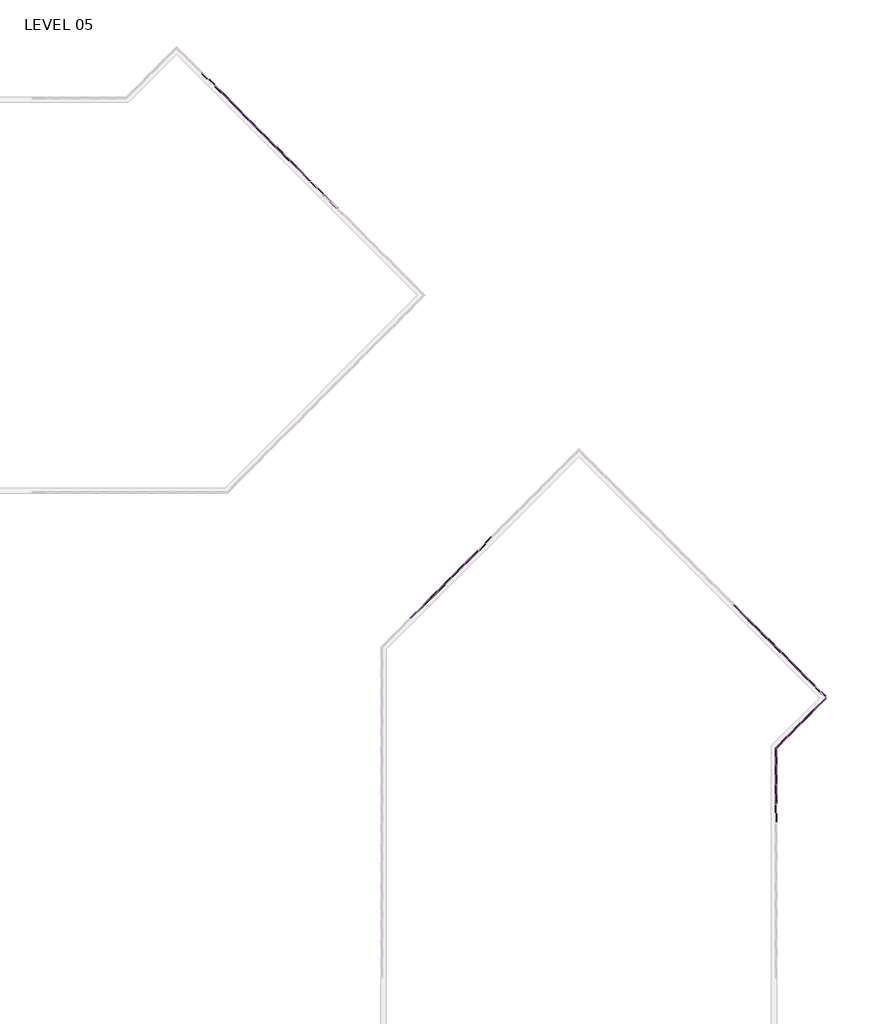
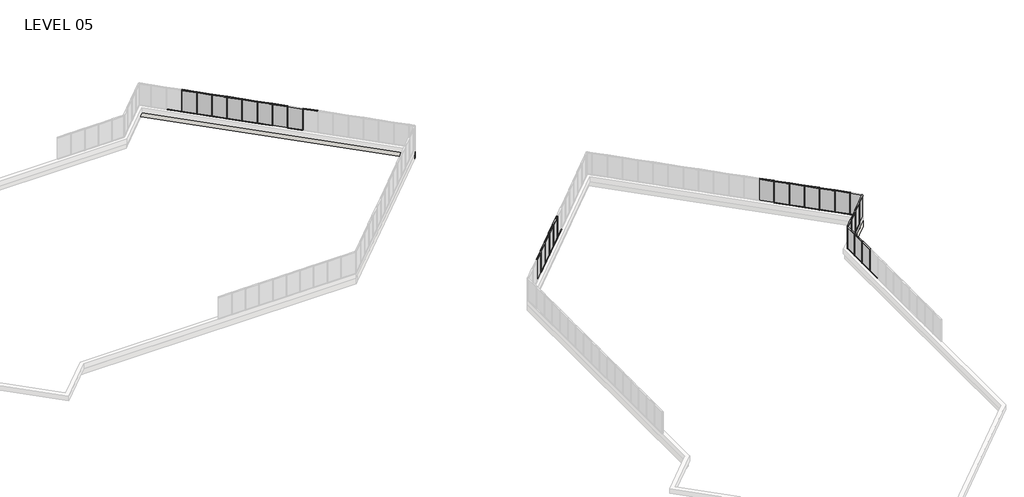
# One storey, part 16 of 17: 80 members, 27 plates, 2 walls.
"""IFC4 building model written with IfcOpenShell, lengths in millimetres."""

from ifc_helpers import new_model, si_unit, origin, place, context, project, spatial, faceted_brep, transform, mapped, element, save
from components import member_5247f267, member_e44af9ab, member_c23f844a, member_ed9c17d6, member_800970d4, member_45eb7f2e, member_53409b32, member_43bac76b, member_0b71a88d, plate_67294edd, plate_50b9cd61, plate_048e4634, plate_dca6a18a, plate_aaac5d3d, plate_9c66726c, plate_e0fd5134, plate_15429445, plate_0d1907f3, plate_903242d9

model = new_model("IFC4")

# Units and contexts
model_context = context("Model", 3, world=origin())
ifc_project = project(units=[si_unit("LENGTHUNIT", "METRE", prefix="MILLI")], contexts=[model_context])

# Site, building, storey
site = spatial("IfcSite", under=ifc_project)
building = spatial("IfcBuilding", under=site)
storey = spatial("IfcBuildingStorey", under=building, Name="LEVEL 05", Elevation=15824.2)

# Members
placement = place(None, origin())
member_shape = member_5247f267(model_context)
element("IfcMember", 1, ObjectType="Rectangular Mullion : 2\" x 4.5\" rectangular", at=placement, inside=storey, context=model_context, shape_type="MappedRepresentation", body=[
    mapped(member_shape, transform((56684.0325556, 112485.575885, 15824.2), x_axis=(0.0, 0.0, -1.0), y_axis=(0.7071067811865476, 0.7071067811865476, 0.0), z_axis=(0.7071067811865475, -0.7071067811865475, 0.0))),
])
element("IfcMember", 2, ObjectType="Rectangular Mullion : 2\" x 4.5\" rectangular", at=placement, inside=storey, context=model_context, shape_type="MappedRepresentation", body=[
    mapped(member_shape, transform((50242.2689164, 118927.3395242, 15824.2), x_axis=(0.0, 0.0, -1.0), y_axis=(0.7071067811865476, 0.7071067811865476, 0.0), z_axis=(0.7071067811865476, -0.7071067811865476, 0.0))),
])
element("IfcMember", 3, ObjectType="Rectangular Mullion : 2\" x 4.5\" rectangular", at=placement, inside=storey, context=model_context, shape_type="MappedRepresentation", body=[
    mapped(member_shape, transform((49164.6381819, 120004.9702587, 15824.2), x_axis=(0.0, 0.0, -1.0), y_axis=(0.7071067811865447, 0.7071067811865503, 0.0), z_axis=(0.7071067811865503, -0.7071067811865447, 0.0))),
])
element("IfcMember", 4, ObjectType="Rectangular Mullion : 2\" x 4.5\" rectangular", at=placement, inside=storey, context=model_context, shape_type="MappedRepresentation", body=[
    mapped(member_shape, transform((48087.0074473, 121082.6009932, 15824.2), x_axis=(0.0, 0.0, -1.0), y_axis=(0.7071067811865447, 0.7071067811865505, 0.0), z_axis=(0.7071067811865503, -0.7071067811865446, 0.0))),
])
element("IfcMember", 5, ObjectType="Rectangular Mullion : 2\" x 4.5\" rectangular", at=placement, inside=storey, context=model_context, shape_type="MappedRepresentation", body=[
    mapped(member_shape, transform((56719.9535801, 112449.6548605, 18415.0), x_axis=(0.0, 0.0, 1.0), y_axis=(0.7071067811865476, 0.7071067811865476, 0.0), z_axis=(-0.7071067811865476, 0.7071067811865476, 0.0))),
])
element("IfcMember", 6, ObjectType="Rectangular Mullion : 2\" x 4.5\" rectangular", at=placement, inside=storey, context=model_context, shape_type="MappedRepresentation", body=[
    mapped(member_shape, transform((49200.5592064, 119969.0492342, 18415.0), x_axis=(0.0, 0.0, 1.0), y_axis=(0.7071067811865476, 0.7071067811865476, 0.0), z_axis=(-0.7071067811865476, 0.7071067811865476, 0.0))),
])
element("IfcMember", 7, ObjectType="Rectangular Mullion : 2\" x 4.5\" rectangular", at=placement, inside=storey, context=model_context, shape_type="MappedRepresentation", body=[
    mapped(member_shape, transform((48122.9284718, 121046.6799687, 18415.0), x_axis=(0.0, 0.0, 1.0), y_axis=(0.7071067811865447, 0.7071067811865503, 0.0), z_axis=(-0.7071067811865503, 0.7071067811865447, 0.0))),
])
member_2_shape = member_e44af9ab(model_context)
element("IfcMember", 8, ObjectType="Rectangular Mullion : 2\" x 4.5\" rectangular", at=placement, inside=storey, context=model_context, shape_type="MappedRepresentation", body=[
    mapped(member_2_shape, transform((56701.9930678, 112467.6153727, 15824.2), x_axis=(-0.7071067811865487, 0.7071067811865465, 0.0), y_axis=(0.7071067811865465, 0.7071067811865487, 0.0), z_axis=(0.0, 0.0, -1.0))),
])
element("IfcMember", 9, ObjectType="Rectangular Mullion : 2\" x 4.5\" rectangular", at=placement, inside=storey, context=model_context, shape_type="MappedRepresentation", body=[
    mapped(member_2_shape, transform((55624.3980678, 113545.2103727, 15824.2), x_axis=(-0.7071067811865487, 0.7071067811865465, 0.0), y_axis=(0.7071067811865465, 0.7071067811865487, 0.0), z_axis=(0.0, 0.0, -1.0))),
])
element("IfcMember", 10, ObjectType="Rectangular Mullion : 2\" x 4.5\" rectangular", at=placement, inside=storey, context=model_context, shape_type="MappedRepresentation", body=[
    mapped(member_2_shape, transform((53475.159658, 115694.4487825, 15824.2), x_axis=(-0.7071067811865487, 0.7071067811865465, 0.0), y_axis=(0.7071067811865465, 0.7071067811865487, 0.0), z_axis=(0.0, 0.0, -1.0))),
])
element("IfcMember", 11, ObjectType="Rectangular Mullion : 2\" x 4.5\" rectangular", at=placement, inside=storey, context=model_context, shape_type="MappedRepresentation", body=[
    mapped(member_2_shape, transform((52403.5162482, 116766.0921923, 15824.2), x_axis=(-0.7071067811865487, 0.7071067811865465, 0.0), y_axis=(0.7071067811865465, 0.7071067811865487, 0.0), z_axis=(0.0, 0.0, -1.0))),
])
element("IfcMember", 12, ObjectType="Rectangular Mullion : 2\" x 4.5\" rectangular", at=placement, inside=storey, context=model_context, shape_type="MappedRepresentation", body=[
    mapped(member_2_shape, transform((51331.8728384, 117837.7356021, 15824.2), x_axis=(-0.7071067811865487, 0.7071067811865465, 0.0), y_axis=(0.7071067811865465, 0.7071067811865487, 0.0), z_axis=(0.0, 0.0, -1.0))),
])
element("IfcMember", 13, ObjectType="Rectangular Mullion : 2\" x 4.5\" rectangular", at=placement, inside=storey, context=model_context, shape_type="MappedRepresentation", body=[
    mapped(member_2_shape, transform((50260.2294286, 118909.3790119, 15824.2), x_axis=(-0.7071067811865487, 0.7071067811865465, 0.0), y_axis=(0.7071067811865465, 0.7071067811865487, 0.0), z_axis=(0.0, 0.0, -1.0))),
])
element("IfcMember", 14, ObjectType="Rectangular Mullion : 2\" x 4.5\" rectangular", at=placement, inside=storey, context=model_context, shape_type="MappedRepresentation", body=[
    mapped(member_2_shape, transform((54549.7788629, 114619.8295776, 15824.2), x_axis=(-0.7071067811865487, 0.7071067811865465, 0.0), y_axis=(0.7071067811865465, 0.7071067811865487, 0.0), z_axis=(0.0, 0.0, -1.0))),
])
element("IfcMember", 15, ObjectType="Rectangular Mullion : 2\" x 4.5\" rectangular", at=placement, inside=storey, context=model_context, shape_type="MappedRepresentation", body=[
    mapped(member_2_shape, transform((49182.5986941, 119987.0097464, 15824.2), x_axis=(-0.7071067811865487, 0.7071067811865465, 0.0), y_axis=(0.7071067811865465, 0.7071067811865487, 0.0), z_axis=(0.0, 0.0, -1.0))),
])
element("IfcMember", 16, ObjectType="Rectangular Mullion : 2\" x 4.5\" rectangular", at=placement, inside=storey, context=model_context, shape_type="MappedRepresentation", body=[
    mapped(member_2_shape, transform((48104.9679596, 121064.640481, 15824.2), x_axis=(-0.7071067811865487, 0.7071067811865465, 0.0), y_axis=(0.7071067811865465, 0.7071067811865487, 0.0), z_axis=(0.0, 0.0, -1.0))),
])
member_3_shape = member_c23f844a(model_context)
element("IfcMember", 17, ObjectType="Rectangular Mullion : 2\" x 4.5\" rectangular", at=placement, inside=storey, context=model_context, shape_type="MappedRepresentation", body=[
    mapped(member_3_shape, transform((52421.4767605, 116748.1316801, 18415.0), x_axis=(0.0, 0.0, 1.0), y_axis=(0.7071067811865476, 0.7071067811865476, 0.0), z_axis=(-0.7071067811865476, 0.7071067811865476, 0.0))),
])
element("IfcMember", 18, ObjectType="Rectangular Mullion : 2\" x 4.5\" rectangular", at=placement, inside=storey, context=model_context, shape_type="MappedRepresentation", body=[
    mapped(member_3_shape, transform((51349.8333507, 117819.7750899, 18415.0), x_axis=(0.0, 0.0, 1.0), y_axis=(0.7071067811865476, 0.7071067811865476, 0.0), z_axis=(-0.7071067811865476, 0.7071067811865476, 0.0))),
])
element("IfcMember", 19, ObjectType="Rectangular Mullion : 2\" x 4.5\" rectangular", at=placement, inside=storey, context=model_context, shape_type="MappedRepresentation", body=[
    mapped(member_3_shape, transform((50278.1899409, 118891.4184997, 18415.0), x_axis=(0.0, 0.0, 1.0), y_axis=(0.7071067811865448, 0.7071067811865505, 0.0), z_axis=(-0.7071067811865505, 0.7071067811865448, 0.0))),
])
element("IfcMember", 20, ObjectType="Rectangular Mullion : 2\" x 4.5\" rectangular", at=placement, inside=storey, context=model_context, shape_type="MappedRepresentation", body=[
    mapped(member_3_shape, transform((53457.1991458, 115712.4092948, 15824.2), x_axis=(0.0, 0.0, -1.0), y_axis=(0.7071067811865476, 0.7071067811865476, 0.0), z_axis=(0.7071067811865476, -0.7071067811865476, 0.0))),
])
element("IfcMember", 21, ObjectType="Rectangular Mullion : 2\" x 4.5\" rectangular", at=placement, inside=storey, context=model_context, shape_type="MappedRepresentation", body=[
    mapped(member_3_shape, transform((52385.555736, 116784.0527046, 15824.2), x_axis=(0.0, 0.0, -1.0), y_axis=(0.7071067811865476, 0.7071067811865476, 0.0), z_axis=(0.7071067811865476, -0.7071067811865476, 0.0))),
])
element("IfcMember", 22, ObjectType="Rectangular Mullion : 2\" x 4.5\" rectangular", at=placement, inside=storey, context=model_context, shape_type="MappedRepresentation", body=[
    mapped(member_3_shape, transform((51313.9123262, 117855.6961144, 15824.2), x_axis=(0.0, 0.0, -1.0), y_axis=(0.7071067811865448, 0.7071067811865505, 0.0), z_axis=(0.7071067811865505, -0.7071067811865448, 0.0))),
])
member_4_shape = member_ed9c17d6(model_context)
element("IfcMember", 23, ObjectType="Rectangular Mullion : 2\" x 4.5\" rectangular", at=placement, inside=storey, context=model_context, shape_type="MappedRepresentation", body=[
    mapped(member_4_shape, transform((53493.1201703, 115676.4882703, 18415.0), x_axis=(0.0, 0.0, 1.0), y_axis=(0.7071067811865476, 0.7071067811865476, 0.0), z_axis=(-0.7071067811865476, 0.7071067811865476, 0.0))),
])
element("IfcMember", 24, ObjectType="Rectangular Mullion : 2\" x 4.5\" rectangular", at=placement, inside=storey, context=model_context, shape_type="MappedRepresentation", body=[
    mapped(member_4_shape, transform((54567.7393752, 114601.8690654, 18415.0), x_axis=(0.0, 0.0, 1.0), y_axis=(0.7071067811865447, 0.7071067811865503, 0.0), z_axis=(-0.7071067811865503, 0.7071067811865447, 0.0))),
])
element("IfcMember", 25, ObjectType="Rectangular Mullion : 2\" x 4.5\" rectangular", at=placement, inside=storey, context=model_context, shape_type="MappedRepresentation", body=[
    mapped(member_4_shape, transform((54531.8183507, 114637.7900899, 15824.2), x_axis=(0.0, 0.0, -1.0), y_axis=(0.7071067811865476, 0.7071067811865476, 0.0), z_axis=(0.7071067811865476, -0.7071067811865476, 0.0))),
])
element("IfcMember", 26, ObjectType="Rectangular Mullion : 2\" x 4.5\" rectangular", at=placement, inside=storey, context=model_context, shape_type="MappedRepresentation", body=[
    mapped(member_shape, transform((92435.9347164, 65925.3675885, 18415.0), x_axis=(0.0, 0.0, 1.0), y_axis=(-1.0, 0.0, 0.0), z_axis=(0.0, -1.0, 0.0))),
])
element("IfcMember", 27, ObjectType="Rectangular Mullion : 2\" x 4.5\" rectangular", at=placement, inside=storey, context=model_context, shape_type="MappedRepresentation", body=[
    mapped(member_shape, transform((92435.9347164, 64401.3675885, 18415.0), x_axis=(0.0, 0.0, 1.0), y_axis=(-1.0, 0.0, 0.0), z_axis=(0.0, -1.0, 0.0))),
])
element("IfcMember", 28, ObjectType="Rectangular Mullion : 2\" x 4.5\" rectangular", at=placement, inside=storey, context=model_context, shape_type="MappedRepresentation", body=[
    mapped(member_shape, transform((64595.6050033, 80065.494011, 18415.0), x_axis=(0.0, 0.0, 1.0), y_axis=(0.7071067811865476, -0.7071067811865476, 0.0), z_axis=(0.7071067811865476, 0.7071067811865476, 0.0))),
])
element("IfcMember", 29, ObjectType="Rectangular Mullion : 2\" x 4.5\" rectangular", at=placement, inside=storey, context=model_context, shape_type="MappedRepresentation", body=[
    mapped(member_shape, transform((65673.2357378, 81143.1247456, 18415.0), x_axis=(0.0, 0.0, 1.0), y_axis=(0.7071067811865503, -0.7071067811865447, 0.0), z_axis=(0.7071067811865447, 0.7071067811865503, 0.0))),
])
element("IfcMember", 30, ObjectType="Rectangular Mullion : 2\" x 4.5\" rectangular", at=placement, inside=storey, context=model_context, shape_type="MappedRepresentation", body=[
    mapped(member_shape, transform((67828.4824051, 83298.3714129, 18415.0), x_axis=(0.0, 0.0, 1.0), y_axis=(0.7071067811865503, -0.7071067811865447, 0.0), z_axis=(0.7071067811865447, 0.7071067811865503, 0.0))),
])
element("IfcMember", 31, ObjectType="Rectangular Mullion : 2\" x 4.5\" rectangular", at=placement, inside=storey, context=model_context, shape_type="MappedRepresentation", body=[
    mapped(member_shape, transform((68906.0983379, 84375.9873457, 18415.0), x_axis=(0.0, 0.0, 1.0), y_axis=(0.7071067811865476, -0.7071067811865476, 0.0), z_axis=(0.7071067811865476, 0.7071067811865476, 0.0))),
])
element("IfcMember", 32, ObjectType="Rectangular Mullion : 2\" x 4.5\" rectangular", at=placement, inside=storey, context=model_context, shape_type="MappedRepresentation", body=[
    mapped(member_shape, transform((66750.8590715, 82220.7480792, 18415.0), x_axis=(0.0, 0.0, 1.0), y_axis=(0.7071067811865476, -0.7071067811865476, 0.0), z_axis=(0.7071067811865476, 0.7071067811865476, 0.0))),
])
element("IfcMember", 33, ObjectType="Rectangular Mullion : 2\" x 4.5\" rectangular", at=placement, inside=storey, context=model_context, shape_type="MappedRepresentation", body=[
    mapped(member_shape, transform((92277.0316457, 76892.5767949, 18415.0), x_axis=(0.0, 0.0, 1.0), y_axis=(-0.7071067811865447, -0.7071067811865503, 0.0), z_axis=(0.7071067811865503, -0.7071067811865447, 0.0))),
])
element("IfcMember", 34, ObjectType="Rectangular Mullion : 2\" x 4.5\" rectangular", at=placement, inside=storey, context=model_context, shape_type="MappedRepresentation", body=[
    mapped(member_shape, transform((93354.6623802, 75814.9460603, 18415.0), x_axis=(0.0, 0.0, 1.0), y_axis=(-0.7071067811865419, -0.7071067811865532, 0.0), z_axis=(0.7071067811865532, -0.7071067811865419, 0.0))),
])
element("IfcMember", 35, ObjectType="Rectangular Mullion : 2\" x 4.5\" rectangular", at=placement, inside=storey, context=model_context, shape_type="MappedRepresentation", body=[
    mapped(member_shape, transform((94432.2931147, 74737.3153258, 18415.0), x_axis=(0.0, 0.0, 1.0), y_axis=(-0.7071067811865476, -0.7071067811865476, 0.0), z_axis=(0.7071067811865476, -0.7071067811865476, 0.0))),
])
element("IfcMember", 36, ObjectType="Rectangular Mullion : 2\" x 4.5\" rectangular", at=placement, inside=storey, context=model_context, shape_type="MappedRepresentation", body=[
    mapped(member_shape, transform((95509.9238493, 73659.6845913, 18415.0), x_axis=(0.0, 0.0, 1.0), y_axis=(-0.7071067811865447, -0.7071067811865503, 0.0), z_axis=(0.7071067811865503, -0.7071067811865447, 0.0))),
])
element("IfcMember", 37, ObjectType="Rectangular Mullion : 2\" x 4.5\" rectangular", at=placement, inside=storey, context=model_context, shape_type="MappedRepresentation", body=[
    mapped(member_shape, transform((94441.1847655, 70787.511502, 18415.0), x_axis=(0.0, 0.0, 1.0), y_axis=(-0.7071067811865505, 0.7071067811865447, 0.0), z_axis=(-0.7071067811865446, -0.7071067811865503, 0.0))),
])
element("IfcMember", 38, ObjectType="Rectangular Mullion : 2\" x 4.5\" rectangular", at=placement, inside=storey, context=model_context, shape_type="MappedRepresentation", body=[
    mapped(member_shape, transform((93363.554031, 69709.8807675, 18415.0), x_axis=(0.0, 0.0, 1.0), y_axis=(-0.7071067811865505, 0.7071067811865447, 0.0), z_axis=(-0.7071067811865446, -0.7071067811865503, 0.0))),
])
element("IfcMember", 39, ObjectType="Rectangular Mullion : 2\" x 4.5\" rectangular", at=placement, inside=storey, context=model_context, shape_type="MappedRepresentation", body=[
    mapped(member_shape, transform((92435.9347164, 67398.5675885, 15824.2), x_axis=(0.0, 0.0, -1.0), y_axis=(-1.0, 0.0, 0.0), z_axis=(0.0, 1.0, 0.0))),
])
element("IfcMember", 40, ObjectType="Rectangular Mullion : 2\" x 4.5\" rectangular", at=placement, inside=storey, context=model_context, shape_type="MappedRepresentation", body=[
    mapped(member_shape, transform((92435.9347164, 65874.5675885, 15824.2), x_axis=(0.0, 0.0, -1.0), y_axis=(-1.0, 0.0, 0.0), z_axis=(0.0, 1.0, 0.0))),
])
element("IfcMember", 41, ObjectType="Rectangular Mullion : 2\" x 4.5\" rectangular", at=placement, inside=storey, context=model_context, shape_type="MappedRepresentation", body=[
    mapped(member_shape, transform((92435.9347164, 64350.5675885, 15824.2), x_axis=(0.0, 0.0, -1.0), y_axis=(-1.0, 0.0, 0.0), z_axis=(0.0, 1.0, 0.0))),
])
element("IfcMember", 42, ObjectType="Rectangular Mullion : 2\" x 4.5\" rectangular", at=placement, inside=storey, context=model_context, shape_type="MappedRepresentation", body=[
    mapped(member_shape, transform((64631.5260278, 80101.4150355, 15824.2), x_axis=(0.0, 0.0, -1.0), y_axis=(0.7071067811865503, -0.7071067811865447, 0.0), z_axis=(-0.7071067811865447, -0.7071067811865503, 0.0))),
])
element("IfcMember", 43, ObjectType="Rectangular Mullion : 2\" x 4.5\" rectangular", at=placement, inside=storey, context=model_context, shape_type="MappedRepresentation", body=[
    mapped(member_shape, transform((65709.1567623, 81179.04577, 15824.2), x_axis=(0.0, 0.0, -1.0), y_axis=(0.7071067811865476, -0.7071067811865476, 0.0), z_axis=(-0.7071067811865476, -0.7071067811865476, 0.0))),
])
element("IfcMember", 44, ObjectType="Rectangular Mullion : 2\" x 4.5\" rectangular", at=placement, inside=storey, context=model_context, shape_type="MappedRepresentation", body=[
    mapped(member_shape, transform((67864.4034296, 83334.2924374, 15824.2), x_axis=(0.0, 0.0, -1.0), y_axis=(0.7071067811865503, -0.7071067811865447, 0.0), z_axis=(-0.7071067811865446, -0.7071067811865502, 0.0))),
])
element("IfcMember", 45, ObjectType="Rectangular Mullion : 2\" x 4.5\" rectangular", at=placement, inside=storey, context=model_context, shape_type="MappedRepresentation", body=[
    mapped(member_shape, transform((68942.0193624, 84411.9083702, 15824.2), x_axis=(0.0, 0.0, -1.0), y_axis=(0.7071067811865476, -0.7071067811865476, 0.0), z_axis=(-0.7071067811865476, -0.7071067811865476, 0.0))),
])
element("IfcMember", 46, ObjectType="Rectangular Mullion : 2\" x 4.5\" rectangular", at=placement, inside=storey, context=model_context, shape_type="MappedRepresentation", body=[
    mapped(member_shape, transform((66786.780096, 82256.6691037, 15824.2), x_axis=(0.0, 0.0, -1.0), y_axis=(0.7071067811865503, -0.7071067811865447, 0.0), z_axis=(-0.7071067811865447, -0.7071067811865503, 0.0))),
])
element("IfcMember", 47, ObjectType="Rectangular Mullion : 2\" x 4.5\" rectangular", at=placement, inside=storey, context=model_context, shape_type="MappedRepresentation", body=[
    mapped(member_shape, transform((91235.3219356, 77934.2865049, 15824.2), x_axis=(0.0, 0.0, -1.0), y_axis=(-0.7071067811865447, -0.7071067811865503, 0.0), z_axis=(-0.7071067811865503, 0.7071067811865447, 0.0))),
])
element("IfcMember", 48, ObjectType="Rectangular Mullion : 2\" x 4.5\" rectangular", at=placement, inside=storey, context=model_context, shape_type="MappedRepresentation", body=[
    mapped(member_shape, transform((92312.9526702, 76856.6557704, 15824.2), x_axis=(0.0, 0.0, -1.0), y_axis=(-0.7071067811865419, -0.7071067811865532, 0.0), z_axis=(-0.7071067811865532, 0.7071067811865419, 0.0))),
])
element("IfcMember", 49, ObjectType="Rectangular Mullion : 2\" x 4.5\" rectangular", at=placement, inside=storey, context=model_context, shape_type="MappedRepresentation", body=[
    mapped(member_shape, transform((93390.5834047, 75779.0250359, 15824.2), x_axis=(0.0, 0.0, -1.0), y_axis=(-0.7071067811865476, -0.7071067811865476, 0.0), z_axis=(-0.7071067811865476, 0.7071067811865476, 0.0))),
])
element("IfcMember", 50, ObjectType="Rectangular Mullion : 2\" x 4.5\" rectangular", at=placement, inside=storey, context=model_context, shape_type="MappedRepresentation", body=[
    mapped(member_shape, transform((94468.2141392, 74701.3943013, 15824.2), x_axis=(0.0, 0.0, -1.0), y_axis=(-0.7071067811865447, -0.7071067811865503, 0.0), z_axis=(-0.7071067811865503, 0.7071067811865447, 0.0))),
])
element("IfcMember", 51, ObjectType="Rectangular Mullion : 2\" x 4.5\" rectangular", at=placement, inside=storey, context=model_context, shape_type="MappedRepresentation", body=[
    mapped(member_shape, transform((94405.263741, 70751.5904775, 15824.2), x_axis=(0.0, 0.0, -1.0), y_axis=(-0.7071067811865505, 0.7071067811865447, 0.0), z_axis=(0.7071067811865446, 0.7071067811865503, 0.0))),
])
element("IfcMember", 52, ObjectType="Rectangular Mullion : 2\" x 4.5\" rectangular", at=placement, inside=storey, context=model_context, shape_type="MappedRepresentation", body=[
    mapped(member_shape, transform((95482.8944756, 71829.221212, 15824.2), x_axis=(0.0, 0.0, -1.0), y_axis=(-0.7071067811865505, 0.7071067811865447, 0.0), z_axis=(0.7071067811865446, 0.7071067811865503, 0.0))),
])
element("IfcMember", 53, ObjectType="Rectangular Mullion : 2\" x 4.5\" rectangular", at=placement, inside=storey, context=model_context, shape_type="MappedRepresentation", body=[
    mapped(member_2_shape, transform((92435.9347164, 67423.9675885, 15824.2), x_axis=(0.0, -1.0, 0.0), y_axis=(-1.0, 0.0, 0.0), z_axis=(0.0, 0.0, -1.0))),
])
element("IfcMember", 54, ObjectType="Rectangular Mullion : 2\" x 4.5\" rectangular", at=placement, inside=storey, context=model_context, shape_type="MappedRepresentation", body=[
    mapped(member_2_shape, transform((92435.9347164, 65899.9675885, 15824.2), x_axis=(0.0, -1.0, 0.0), y_axis=(-1.0, 0.0, 0.0), z_axis=(0.0, 0.0, -1.0))),
])
element("IfcMember", 55, ObjectType="Rectangular Mullion : 2\" x 4.5\" rectangular", at=placement, inside=storey, context=model_context, shape_type="MappedRepresentation", body=[
    mapped(member_2_shape, transform((92435.9347164, 64375.9675885, 15824.2), x_axis=(0.0, -1.0, 0.0), y_axis=(-1.0, 0.0, 0.0), z_axis=(0.0, 0.0, -1.0))),
])
element("IfcMember", 56, ObjectType="Rectangular Mullion : 2\" x 4.5\" rectangular", at=placement, inside=storey, context=model_context, shape_type="MappedRepresentation", body=[
    mapped(member_2_shape, transform((64613.5655155, 80083.4545233, 15824.2), x_axis=(0.7071067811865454, 0.7071067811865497, 0.0), y_axis=(0.7071067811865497, -0.7071067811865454, 0.0), z_axis=(0.0, 0.0, -1.0))),
])
element("IfcMember", 57, ObjectType="Rectangular Mullion : 2\" x 4.5\" rectangular", at=placement, inside=storey, context=model_context, shape_type="MappedRepresentation", body=[
    mapped(member_2_shape, transform((65691.1962501, 81161.0852578, 15824.2), x_axis=(0.7071067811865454, 0.7071067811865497, 0.0), y_axis=(0.7071067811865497, -0.7071067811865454, 0.0), z_axis=(0.0, 0.0, -1.0))),
])
element("IfcMember", 58, ObjectType="Rectangular Mullion : 2\" x 4.5\" rectangular", at=placement, inside=storey, context=model_context, shape_type="MappedRepresentation", body=[
    mapped(member_2_shape, transform((67846.4429174, 83316.3319251, 15824.2), x_axis=(0.7071067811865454, 0.7071067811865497, 0.0), y_axis=(0.7071067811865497, -0.7071067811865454, 0.0), z_axis=(0.0, 0.0, -1.0))),
])
element("IfcMember", 59, ObjectType="Rectangular Mullion : 2\" x 4.5\" rectangular", at=placement, inside=storey, context=model_context, shape_type="MappedRepresentation", body=[
    mapped(member_2_shape, transform((68924.0588502, 84393.9478579, 15824.2), x_axis=(0.7071067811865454, 0.7071067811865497, 0.0), y_axis=(0.7071067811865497, -0.7071067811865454, 0.0), z_axis=(0.0, 0.0, -1.0))),
])
element("IfcMember", 60, ObjectType="Rectangular Mullion : 2\" x 4.5\" rectangular", at=placement, inside=storey, context=model_context, shape_type="MappedRepresentation", body=[
    mapped(member_2_shape, transform((66768.8195837, 82238.7085915, 15824.2), x_axis=(0.7071067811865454, 0.7071067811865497, 0.0), y_axis=(0.7071067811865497, -0.7071067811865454, 0.0), z_axis=(0.0, 0.0, -1.0))),
])
element("IfcMember", 61, ObjectType="Rectangular Mullion : 2\" x 4.5\" rectangular", at=placement, inside=storey, context=model_context, shape_type="MappedRepresentation", body=[
    mapped(member_2_shape, transform((90145.7180136, 79023.890427, 15824.2), x_axis=(0.7071067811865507, -0.7071067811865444, 0.0), y_axis=(-0.7071067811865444, -0.7071067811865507, 0.0), z_axis=(0.0, 0.0, -1.0))),
])
element("IfcMember", 62, ObjectType="Rectangular Mullion : 2\" x 4.5\" rectangular", at=placement, inside=storey, context=model_context, shape_type="MappedRepresentation", body=[
    mapped(member_2_shape, transform((91217.3614234, 77952.2470172, 15824.2), x_axis=(0.7071067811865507, -0.7071067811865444, 0.0), y_axis=(-0.7071067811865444, -0.7071067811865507, 0.0), z_axis=(0.0, 0.0, -1.0))),
])
element("IfcMember", 63, ObjectType="Rectangular Mullion : 2\" x 4.5\" rectangular", at=placement, inside=storey, context=model_context, shape_type="MappedRepresentation", body=[
    mapped(member_2_shape, transform((92294.9921579, 76874.6162826, 15824.2), x_axis=(0.7071067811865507, -0.7071067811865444, 0.0), y_axis=(-0.7071067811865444, -0.7071067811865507, 0.0), z_axis=(0.0, 0.0, -1.0))),
])
element("IfcMember", 64, ObjectType="Rectangular Mullion : 2\" x 4.5\" rectangular", at=placement, inside=storey, context=model_context, shape_type="MappedRepresentation", body=[
    mapped(member_2_shape, transform((93372.6228924, 75796.9855481, 15824.2), x_axis=(0.7071067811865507, -0.7071067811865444, 0.0), y_axis=(-0.7071067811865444, -0.7071067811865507, 0.0), z_axis=(0.0, 0.0, -1.0))),
])
element("IfcMember", 65, ObjectType="Rectangular Mullion : 2\" x 4.5\" rectangular", at=placement, inside=storey, context=model_context, shape_type="MappedRepresentation", body=[
    mapped(member_2_shape, transform((94450.253627, 74719.3548136, 15824.2), x_axis=(0.7071067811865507, -0.7071067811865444, 0.0), y_axis=(-0.7071067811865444, -0.7071067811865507, 0.0), z_axis=(0.0, 0.0, -1.0))),
])
element("IfcMember", 66, ObjectType="Rectangular Mullion : 2\" x 4.5\" rectangular", at=placement, inside=storey, context=model_context, shape_type="MappedRepresentation", body=[
    mapped(member_2_shape, transform((95527.8843615, 73641.724079, 15824.2), x_axis=(0.7071067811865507, -0.7071067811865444, 0.0), y_axis=(-0.7071067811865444, -0.7071067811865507, 0.0), z_axis=(0.0, 0.0, -1.0))),
])
element("IfcMember", 67, ObjectType="Rectangular Mullion : 2\" x 4.5\" rectangular", at=placement, inside=storey, context=model_context, shape_type="MappedRepresentation", body=[
    mapped(member_2_shape, transform((94423.2242533, 70769.5509898, 15824.2), x_axis=(-0.7071067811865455, -0.7071067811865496, 0.0), y_axis=(-0.7071067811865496, 0.7071067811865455, 0.0), z_axis=(0.0, 0.0, -1.0))),
])
element("IfcMember", 68, ObjectType="Rectangular Mullion : 2\" x 4.5\" rectangular", at=placement, inside=storey, context=model_context, shape_type="MappedRepresentation", body=[
    mapped(member_2_shape, transform((93345.5935187, 69691.9202552, 15824.2), x_axis=(-0.7071067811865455, -0.7071067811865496, 0.0), y_axis=(-0.7071067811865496, 0.7071067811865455, 0.0), z_axis=(0.0, 0.0, -1.0))),
])
element("IfcMember", 69, ObjectType="Rectangular Mullion : 2\" x 4.5\" rectangular", at=placement, inside=storey, context=model_context, shape_type="MappedRepresentation", body=[
    mapped(member_2_shape, transform((95500.8549878, 71847.1817243, 15824.2), x_axis=(-0.7071067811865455, -0.7071067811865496, 0.0), y_axis=(-0.7071067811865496, 0.7071067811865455, 0.0), z_axis=(0.0, 0.0, -1.0))),
])
member_5_shape = member_800970d4(model_context)
element("IfcMember", 70, ObjectType="Rectangular Mullion : 2\" x 4.5\" rectangular", at=placement, inside=storey, context=model_context, shape_type="MappedRepresentation", body=[
    mapped(member_5_shape, transform((92435.9347164, 68782.2614529, 15824.2), x_axis=(-0.7071067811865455, -0.7071067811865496, 0.0), y_axis=(-0.7071067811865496, 0.7071067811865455, 0.0), z_axis=(0.0, 0.0, -1.0))),
])
element("IfcMember", 71, ObjectType="Rectangular Mullion : 2\" x 4.5\" rectangular", at=placement, inside=storey, context=model_context, shape_type="MappedRepresentation", body=[
    mapped(member_5_shape, transform((92435.9347164, 68782.2614529, 18415.0), x_axis=(0.0, 1.0, 0.0), y_axis=(-1.0, 0.0, 0.0), z_axis=(0.0, 0.0, 1.0))),
])
element("IfcMember", 72, ObjectType="Rectangular Mullion : 2\" x 4.5\" rectangular", at=placement, inside=storey, context=model_context, shape_type="MappedRepresentation", body=[
    mapped(member_3_shape, transform((90127.7575014, 79041.8509392, 18415.0), x_axis=(0.0, 0.0, 1.0), y_axis=(-0.7071067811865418, -0.7071067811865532, 0.0), z_axis=(0.7071067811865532, -0.7071067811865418, 0.0))),
])
element("IfcMember", 73, ObjectType="Rectangular Mullion : 2\" x 4.5\" rectangular", at=placement, inside=storey, context=model_context, shape_type="MappedRepresentation", body=[
    mapped(member_3_shape, transform((91199.4009111, 77970.2075294, 18415.0), x_axis=(0.0, 0.0, 1.0), y_axis=(-0.7071067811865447, -0.7071067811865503, 0.0), z_axis=(0.7071067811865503, -0.7071067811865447, 0.0))),
])
element("IfcMember", 74, ObjectType="Rectangular Mullion : 2\" x 4.5\" rectangular", at=placement, inside=storey, context=model_context, shape_type="MappedRepresentation", body=[
    mapped(member_3_shape, transform((90163.6785258, 79005.9299147, 15824.2), x_axis=(0.0, 0.0, -1.0), y_axis=(-0.7071067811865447, -0.7071067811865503, 0.0), z_axis=(-0.7071067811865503, 0.7071067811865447, 0.0))),
])
member_6_shape = member_45eb7f2e(model_context)
element("IfcMember", 75, ObjectType="Rectangular Mullion : 2\" x 4.5\" rectangular", at=placement, inside=storey, context=model_context, shape_type="MappedRepresentation", body=[
    mapped(member_6_shape, transform((92435.9347164, 67449.3675885, 18415.0), x_axis=(0.0, 0.0, 1.0), y_axis=(-1.0, 0.0, 0.0), z_axis=(0.0, -1.0, 0.0))),
])
element("IfcMember", 76, ObjectType="Rectangular Mullion : 2\" x 4.5\" rectangular", at=placement, inside=storey, context=model_context, shape_type="MappedRepresentation", body=[
    mapped(member_6_shape, transform((92435.9347164, 68731.4614529, 15824.2), x_axis=(0.0, 0.0, -1.0), y_axis=(-1.0, 0.0, 0.0), z_axis=(0.0, 1.0, 0.0))),
])
member_7_shape = member_53409b32(model_context)
element("IfcMember", 77, ObjectType="Rectangular Mullion : 2\" x 4.5\" rectangular", at=placement, inside=storey, context=model_context, shape_type="MappedRepresentation", body=[
    mapped(member_7_shape, transform((95545.8448737, 73623.7635668, 15824.2), x_axis=(0.0, 0.0, -1.0), y_axis=(-0.7071067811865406, -0.7071067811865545, 0.0), z_axis=(-0.7071067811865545, 0.7071067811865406, 0.0))),
])
member_8_shape = member_43bac76b(model_context)
element("IfcMember", 78, ObjectType="Rectangular Mullion : 2\" x 4.5\" rectangular", at=placement, inside=storey, context=model_context, shape_type="MappedRepresentation", body=[
    mapped(member_8_shape, transform((92471.8557409, 68818.1824774, 18415.0), x_axis=(0.0, 0.0, 1.0), y_axis=(-0.7071067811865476, 0.7071067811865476, 0.0), z_axis=(-0.7071067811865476, -0.7071067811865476, 0.0))),
])
element("IfcMember", 79, ObjectType="Rectangular Mullion : 2\" x 4.5\" rectangular", at=placement, inside=storey, context=model_context, shape_type="MappedRepresentation", body=[
    mapped(member_8_shape, transform((93327.6330065, 69673.959743, 15824.2), x_axis=(0.0, 0.0, -1.0), y_axis=(-0.7071067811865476, 0.7071067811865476, 0.0), z_axis=(0.7071067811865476, 0.7071067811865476, 0.0))),
])
member_9_shape = member_0b71a88d(model_context)
element("IfcMember", 80, ObjectType="Rectangular Mullion : 2\" x 4.5\" rectangular", at=placement, inside=storey, context=model_context, shape_type="MappedRepresentation", body=[
    mapped(member_9_shape, transform((95518.8155, 71865.1422365, 18415.0), x_axis=(0.0, 0.0, 1.0), y_axis=(-0.7071067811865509, 0.7071067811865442, 0.0), z_axis=(-0.7071067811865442, -0.7071067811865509, 0.0))),
])

# Plates
plate_shape = plate_67294edd(model_context)
element("IfcPlate", 81, ObjectType="System Panel : 1/4\" Glass", at=placement, inside=storey, context=model_context, shape_type="MappedRepresentation", body=[
    mapped(plate_shape, transform((49721.4140614, 119448.1943792, 15875.0), x_axis=(-0.7071067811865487, 0.7071067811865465, 0.0), y_axis=(-0.7071067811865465, -0.7071067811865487, 0.0), z_axis=(0.0, 0.0, 1.0))),
])
element("IfcPlate", 82, ObjectType="System Panel : 1/4\" Glass", at=placement, inside=storey, context=model_context, shape_type="MappedRepresentation", body=[
    mapped(plate_shape, transform((48643.7833268, 120525.8251137, 15875.0), x_axis=(-0.7071067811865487, 0.7071067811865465, 0.0), y_axis=(-0.7071067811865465, -0.7071067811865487, 0.0), z_axis=(0.0, 0.0, 1.0))),
])
plate_2_shape = plate_50b9cd61(model_context)
element("IfcPlate", 83, ObjectType="System Panel : 1/4\" Glass", at=placement, inside=storey, context=model_context, shape_type="MappedRepresentation", body=[
    mapped(plate_2_shape, transform((52939.3379531, 116230.2704874, 15875.0), x_axis=(-0.7071067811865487, 0.7071067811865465, 0.0), y_axis=(-0.7071067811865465, -0.7071067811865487, 0.0), z_axis=(0.0, 0.0, 1.0))),
])
element("IfcPlate", 84, ObjectType="System Panel : 1/4\" Glass", at=placement, inside=storey, context=model_context, shape_type="MappedRepresentation", body=[
    mapped(plate_2_shape, transform((51867.6945433, 117301.9138972, 15875.0), x_axis=(-0.7071067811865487, 0.7071067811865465, 0.0), y_axis=(-0.7071067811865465, -0.7071067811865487, 0.0), z_axis=(0.0, 0.0, 1.0))),
])
element("IfcPlate", 85, ObjectType="System Panel : 1/4\" Glass", at=placement, inside=storey, context=model_context, shape_type="MappedRepresentation", body=[
    mapped(plate_2_shape, transform((50796.0511335, 118373.557307, 15875.0), x_axis=(-0.7071067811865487, 0.7071067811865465, 0.0), y_axis=(-0.7071067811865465, -0.7071067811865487, 0.0), z_axis=(0.0, 0.0, 1.0))),
])
plate_3_shape = plate_048e4634(model_context)
element("IfcPlate", 86, ObjectType="System Panel : 1/4\" Glass", at=placement, inside=storey, context=model_context, shape_type="MappedRepresentation", body=[
    mapped(plate_3_shape, transform((56163.1955678, 113006.4128727, 15875.0), x_axis=(-0.7071067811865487, 0.7071067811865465, 0.0), y_axis=(-0.7071067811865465, -0.7071067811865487, 0.0), z_axis=(0.0, 0.0, 1.0))),
])
plate_4_shape = plate_dca6a18a(model_context)
element("IfcPlate", 87, ObjectType="System Panel : 1/4\" Glass", at=placement, inside=storey, context=model_context, shape_type="MappedRepresentation", body=[
    mapped(plate_4_shape, transform((55087.0884654, 114082.5199752, 15875.0), x_axis=(-0.7071067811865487, 0.7071067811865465, 0.0), y_axis=(-0.7071067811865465, -0.7071067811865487, 0.0), z_axis=(0.0, 0.0, 1.0))),
])
element("IfcPlate", 88, ObjectType="System Panel : 1/4\" Glass", at=placement, inside=storey, context=model_context, shape_type="MappedRepresentation", body=[
    mapped(plate_4_shape, transform((54012.4692605, 115157.1391801, 15875.0), x_axis=(-0.7071067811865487, 0.7071067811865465, 0.0), y_axis=(-0.7071067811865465, -0.7071067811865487, 0.0), z_axis=(0.0, 0.0, 1.0))),
])
element("IfcPlate", 89, ObjectType="System Panel : 1/4\" Glass", at=placement, inside=storey, context=model_context, shape_type="MappedRepresentation", body=[
    mapped(plate_shape, transform((92435.9347164, 66661.9675885, 15875.0), x_axis=(0.0, -1.0, 0.0), y_axis=(1.0, 0.0, 0.0), z_axis=(0.0, 0.0, 1.0))),
])
element("IfcPlate", 90, ObjectType="System Panel : 1/4\" Glass", at=placement, inside=storey, context=model_context, shape_type="MappedRepresentation", body=[
    mapped(plate_shape, transform((92435.9347164, 65137.9675885, 15875.0), x_axis=(0.0, -1.0, 0.0), y_axis=(1.0, 0.0, 0.0), z_axis=(0.0, 0.0, 1.0))),
])
element("IfcPlate", 91, ObjectType="System Panel : 1/4\" Glass", at=placement, inside=storey, context=model_context, shape_type="MappedRepresentation", body=[
    mapped(plate_shape, transform((64074.7501483, 79544.639156, 15875.0), x_axis=(0.7071067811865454, 0.7071067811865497, 0.0), y_axis=(-0.7071067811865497, 0.7071067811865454, 0.0), z_axis=(0.0, 0.0, 1.0))),
])
element("IfcPlate", 92, ObjectType="System Panel : 1/4\" Glass", at=placement, inside=storey, context=model_context, shape_type="MappedRepresentation", body=[
    mapped(plate_shape, transform((65152.3808828, 80622.2698905, 15875.0), x_axis=(0.7071067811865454, 0.7071067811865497, 0.0), y_axis=(-0.7071067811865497, 0.7071067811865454, 0.0), z_axis=(0.0, 0.0, 1.0))),
])
element("IfcPlate", 93, ObjectType="System Panel : 1/4\" Glass", at=placement, inside=storey, context=model_context, shape_type="MappedRepresentation", body=[
    mapped(plate_shape, transform((91756.1767907, 77413.4316499, 15875.0), x_axis=(0.7071067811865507, -0.7071067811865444, 0.0), y_axis=(0.7071067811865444, 0.7071067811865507, 0.0), z_axis=(0.0, 0.0, 1.0))),
])
element("IfcPlate", 94, ObjectType="System Panel : 1/4\" Glass", at=placement, inside=storey, context=model_context, shape_type="MappedRepresentation", body=[
    mapped(plate_shape, transform((92833.8075252, 76335.8009154, 15875.0), x_axis=(0.7071067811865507, -0.7071067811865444, 0.0), y_axis=(0.7071067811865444, 0.7071067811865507, 0.0), z_axis=(0.0, 0.0, 1.0))),
])
element("IfcPlate", 95, ObjectType="System Panel : 1/4\" Glass", at=placement, inside=storey, context=model_context, shape_type="MappedRepresentation", body=[
    mapped(plate_shape, transform((93911.4382597, 75258.1701808, 15875.0), x_axis=(0.7071067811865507, -0.7071067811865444, 0.0), y_axis=(0.7071067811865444, 0.7071067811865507, 0.0), z_axis=(0.0, 0.0, 1.0))),
])
element("IfcPlate", 96, ObjectType="System Panel : 1/4\" Glass", at=placement, inside=storey, context=model_context, shape_type="MappedRepresentation", body=[
    mapped(plate_shape, transform((94989.0689942, 74180.5394463, 15875.0), x_axis=(0.7071067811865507, -0.7071067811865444, 0.0), y_axis=(0.7071067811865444, 0.7071067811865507, 0.0), z_axis=(0.0, 0.0, 1.0))),
])
element("IfcPlate", 97, ObjectType="System Panel : 1/4\" Glass", at=placement, inside=storey, context=model_context, shape_type="MappedRepresentation", body=[
    mapped(plate_shape, transform((93884.408886, 70230.7356225, 15875.0), x_axis=(-0.7071067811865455, -0.7071067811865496, 0.0), y_axis=(0.7071067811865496, -0.7071067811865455, 0.0), z_axis=(0.0, 0.0, 1.0))),
])
element("IfcPlate", 98, ObjectType="System Panel : 1/4\" Glass", at=placement, inside=storey, context=model_context, shape_type="MappedRepresentation", body=[
    mapped(plate_shape, transform((94962.0396205, 71308.366357, 15875.0), x_axis=(-0.7071067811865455, -0.7071067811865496, 0.0), y_axis=(0.7071067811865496, -0.7071067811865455, 0.0), z_axis=(0.0, 0.0, 1.0))),
])
plate_5_shape = plate_aaac5d3d(model_context)
element("IfcPlate", 99, ObjectType="System Panel : 1/4\" Glass", at=placement, inside=storey, context=model_context, shape_type="MappedRepresentation", body=[
    mapped(plate_5_shape, transform((68385.2508838, 83855.1398915, 15875.0), x_axis=(0.7071067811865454, 0.7071067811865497, 0.0), y_axis=(-0.7071067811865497, 0.7071067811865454, 0.0), z_axis=(0.0, 0.0, 1.0))),
])
element("IfcPlate", 100, ObjectType="System Panel : 1/4\" Glass", at=placement, inside=storey, context=model_context, shape_type="MappedRepresentation", body=[
    mapped(plate_2_shape, transform((89609.8963087, 79559.7121319, 15875.0), x_axis=(0.7071067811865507, -0.7071067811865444, 0.0), y_axis=(0.7071067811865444, 0.7071067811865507, 0.0), z_axis=(0.0, 0.0, 1.0))),
])
element("IfcPlate", 101, ObjectType="System Panel : 1/4\" Glass", at=placement, inside=storey, context=model_context, shape_type="MappedRepresentation", body=[
    mapped(plate_2_shape, transform((90681.5397185, 78488.0687221, 15875.0), x_axis=(0.7071067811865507, -0.7071067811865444, 0.0), y_axis=(0.7071067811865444, 0.7071067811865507, 0.0), z_axis=(0.0, 0.0, 1.0))),
])
plate_6_shape = plate_9c66726c(model_context)
element("IfcPlate", 102, ObjectType="System Panel : 1/4\" Glass", at=placement, inside=storey, context=model_context, shape_type="MappedRepresentation", body=[
    mapped(plate_6_shape, transform((92435.9347164, 68090.4145207, 15875.0), x_axis=(0.0, -1.0, 0.0), y_axis=(1.0, 0.0, 0.0), z_axis=(0.0, 0.0, 1.0))),
])
plate_7_shape = plate_e0fd5134(model_context)
element("IfcPlate", 103, ObjectType="System Panel : 1/4\" Glass", at=placement, inside=storey, context=model_context, shape_type="MappedRepresentation", body=[
    mapped(plate_7_shape, transform((66230.0079169, 81699.8969246, 15875.0), x_axis=(0.7071067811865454, 0.7071067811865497, 0.0), y_axis=(-0.7071067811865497, 0.7071067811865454, 0.0), z_axis=(0.0, 0.0, 1.0))),
])
element("IfcPlate", 104, ObjectType="System Panel : 1/4\" Glass", at=placement, inside=storey, context=model_context, shape_type="MappedRepresentation", body=[
    mapped(plate_7_shape, transform((67307.6312505, 82777.5202583, 15875.0), x_axis=(0.7071067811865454, 0.7071067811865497, 0.0), y_axis=(-0.7071067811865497, 0.7071067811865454, 0.0), z_axis=(0.0, 0.0, 1.0))),
])
plate_8_shape = plate_15429445(model_context)
element("IfcPlate", 105, ObjectType="System Panel : 1/4\" Glass", at=placement, inside=storey, context=model_context, shape_type="MappedRepresentation", body=[
    mapped(plate_8_shape, transform((95947.2676638, 72293.5944003, 15875.0), x_axis=(-0.7071067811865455, -0.7071067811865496, 0.0), y_axis=(0.7071067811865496, -0.7071067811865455, 0.0), z_axis=(0.0, 0.0, 1.0))),
])
plate_9_shape = plate_0d1907f3(model_context)
element("IfcPlate", 106, ObjectType="System Panel : 1/4\" Glass", at=placement, inside=storey, context=model_context, shape_type="MappedRepresentation", body=[
    mapped(plate_9_shape, transform((92899.7443737, 69246.0711102, 15875.0), x_axis=(-0.7071067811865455, -0.7071067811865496, 0.0), y_axis=(0.7071067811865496, -0.7071067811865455, 0.0), z_axis=(0.0, 0.0, 1.0))),
])
plate_10_shape = plate_903242d9(model_context)
element("IfcPlate", 107, ObjectType="System Panel : 1/4\" Glass", at=placement, inside=storey, context=model_context, shape_type="MappedRepresentation", body=[
    mapped(plate_10_shape, transform((95960.7823506, 73208.8260899, 15875.0), x_axis=(0.7071067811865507, -0.7071067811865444, 0.0), y_axis=(0.7071067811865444, 0.7071067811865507, 0.0), z_axis=(0.0, 0.0, 1.0))),
])

# Walls
element("IfcWall", 108, ObjectType="01-CONCRETE-12", at=placement, inside=storey, context=model_context, shape_type="Brep", body=[
    faceted_brep([(92493.0847164, 68758.5891478, 14643.1), (96492.4631571, 72757.9675885, 14643.1), (96492.4631571, 72757.9675885, 15265.4), (92493.0847164, 68758.5891478, 15265.4), (92493.0847164, 69189.6414416, 14643.1), (92493.0847164, 69189.6414416, 15265.4), (96061.4108633, 72757.9675885, 15265.4), (96276.9370102, 72973.4937354, 15265.4), (96276.9370102, 72973.4937354, 14643.1), (96061.4108633, 72757.9675885, 14643.1)], [[[0, 1, 2, 3]], [[4, 5, 6, 7, 8, 9]], [[1, 0, 4, 9, 8]], [[3, 2, 7, 6, 5]], [[0, 3, 5, 4]], [[2, 1, 8, 7]]]),
])
element("IfcWall", 109, ObjectType="01-CONCRETE-12", at=placement, inside=storey, context=model_context, shape_type="Brep", body=[
    faceted_brep([(45065.95, 123753.4284518, 14643.1), (64277.5011469, 104541.8773049, 14643.1), (64493.0272938, 104326.351158, 14643.1), (64493.0272938, 104326.351158, 15265.4), (64277.5011469, 104541.8773049, 15265.4), (45065.95, 123753.4284518, 15265.4), (45281.4761469, 123968.9545987, 14643.1), (45281.4761469, 123968.9545987, 15265.4), (64708.5534407, 104541.8773049, 15265.4), (64708.5534407, 104541.8773049, 14643.1)], [[[0, 1, 2, 3, 4, 5]], [[6, 7, 8, 9]], [[2, 1, 0, 6, 9]], [[5, 4, 3, 8, 7]], [[0, 5, 7, 6]], [[3, 2, 9, 8]]]),
])

save(model, "model.ifc")
